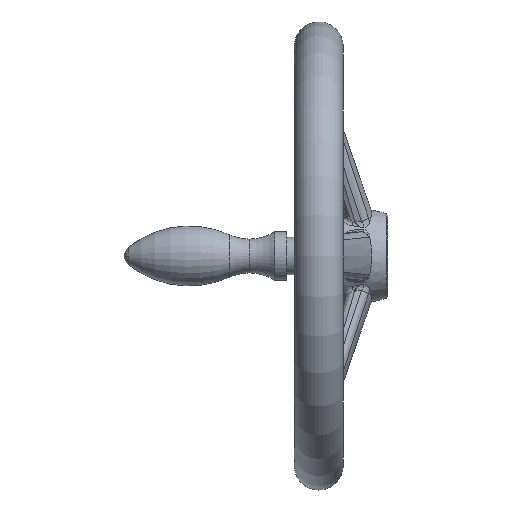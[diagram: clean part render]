
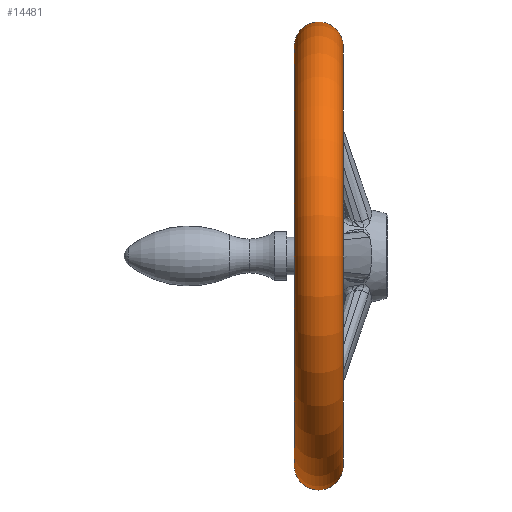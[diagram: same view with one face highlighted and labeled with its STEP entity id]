
A CAD part, left-side view. The second image highlights one B-rep face of the part: STEP entity #14481.
In plain terms, the highlighted toroidal (fillet/blend) face has major radius 111.958 mm and minor radius 13.042 mm.
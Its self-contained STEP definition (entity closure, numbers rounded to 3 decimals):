
#738 = VERTEX_POINT ( 'NONE', #7025 ) ;
#7025 = CARTESIAN_POINT ( 'NONE',  ( 0., 50., -113. ) ) ;
#13670 = EDGE_CURVE ( 'NONE', #14788, #14804, #17093, .T. ) ;
#14391 = EDGE_CURVE ( 'NONE', #14804, #14442, #17848, .T. ) ;
#14398 = EDGE_LOOP ( 'NONE', ( #14466, #14438, #14488, #14419 ) ) ;
#14419 = ORIENTED_EDGE ( 'NONE', *, *, #14391, .F. ) ;
#14438 = ORIENTED_EDGE ( 'NONE', *, *, #14787, .T. ) ;
#14442 = VERTEX_POINT ( 'NONE', #18306 ) ;
#14466 = ORIENTED_EDGE ( 'NONE', *, *, #13670, .F. ) ;
#14481 = ADVANCED_FACE ( 'NONE', ( #18302 ), #18423, .T. ) ;
#14488 = ORIENTED_EDGE ( 'NONE', *, *, #15284, .T. ) ;
#14787 = EDGE_CURVE ( 'NONE', #14788, #738, #18591, .T. ) ;
#14788 = VERTEX_POINT ( 'NONE', #18617 ) ;
#14804 = VERTEX_POINT ( 'NONE', #18676 ) ;
#15284 = EDGE_CURVE ( 'NONE', #738, #14442, #20113, .T. ) ;
#17083 = AXIS2_PLACEMENT_3D ( 'NONE', #17096, #17143, #17142 ) ;
#17093 = CIRCLE ( 'NONE', #17083, 13.042 ) ;
#17096 = CARTESIAN_POINT ( 'NONE',  ( 0., 37., 111.958 ) ) ;
#17142 = DIRECTION ( 'NONE',  ( 0., 0., -1. ) ) ;
#17143 = DIRECTION ( 'NONE',  ( 1., 0., 0. ) ) ;
#17815 = DIRECTION ( 'NONE',  ( 0., 0., -1. ) ) ;
#17816 = DIRECTION ( 'NONE',  ( 0., -1., 0. ) ) ;
#17818 = CARTESIAN_POINT ( 'NONE',  ( 0., 24., 0. ) ) ;
#17819 = AXIS2_PLACEMENT_3D ( 'NONE', #17818, #17816, #17815 ) ;
#17848 = CIRCLE ( 'NONE', #17819, 113. ) ;
#18302 = FACE_OUTER_BOUND ( 'NONE', #14398, .T. ) ;
#18306 = CARTESIAN_POINT ( 'NONE',  ( 0., 24., -113. ) ) ;
#18422 = CARTESIAN_POINT ( 'NONE',  ( 0., 37., 0. ) ) ;
#18423 = TOROIDAL_SURFACE ( 'NONE', #18435, 111.958, 13.042 ) ;
#18433 = DIRECTION ( 'NONE',  ( 0., 0., -1. ) ) ;
#18434 = DIRECTION ( 'NONE',  ( 0., -1., 0. ) ) ;
#18435 = AXIS2_PLACEMENT_3D ( 'NONE', #18422, #18434, #18433 ) ;
#18591 = CIRCLE ( 'NONE', #18592, 113. ) ;
#18592 = AXIS2_PLACEMENT_3D ( 'NONE', #18616, #18639, #18638 ) ;
#18616 = CARTESIAN_POINT ( 'NONE',  ( 0., 50., 0. ) ) ;
#18617 = CARTESIAN_POINT ( 'NONE',  ( 0., 50., 113. ) ) ;
#18638 = DIRECTION ( 'NONE',  ( 0., 0., -1. ) ) ;
#18639 = DIRECTION ( 'NONE',  ( 0., -1., 0. ) ) ;
#18676 = CARTESIAN_POINT ( 'NONE',  ( 0., 24., 113. ) ) ;
#20109 = DIRECTION ( 'NONE',  ( 0., 0., 1. ) ) ;
#20110 = DIRECTION ( 'NONE',  ( -1., 0., 0. ) ) ;
#20111 = CARTESIAN_POINT ( 'NONE',  ( 0., 37., -111.958 ) ) ;
#20112 = AXIS2_PLACEMENT_3D ( 'NONE', #20111, #20110, #20109 ) ;
#20113 = CIRCLE ( 'NONE', #20112, 13.042 ) ;
